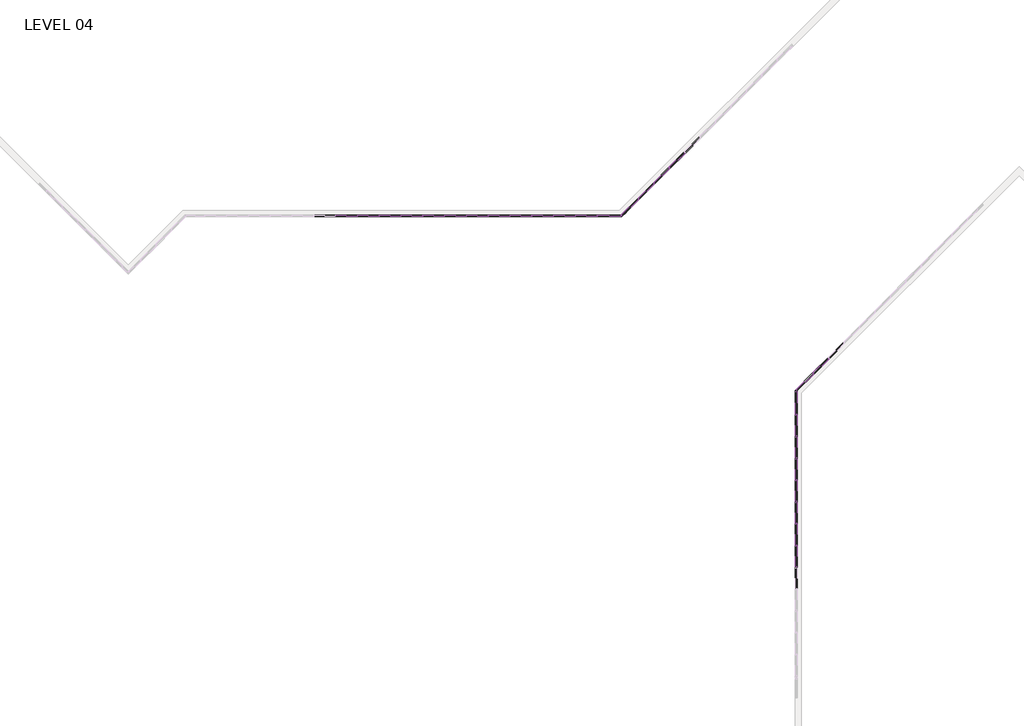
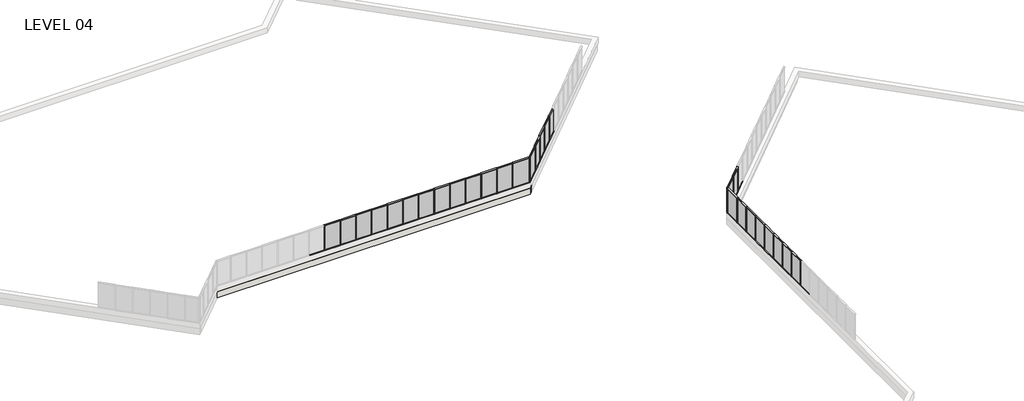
# One storey, part 13 of 17: 89 members, 28 plates, 1 wall.
"""IFC4 building model written with IfcOpenShell, lengths in millimetres."""

from ifc_helpers import new_model, si_unit, origin, place, context, project, spatial, faceted_brep, transform, mapped, element, save
from components import member_5247f267, member_e44af9ab, member_800970d4, member_1bd862b2, member_7ca0f77f, member_c975838b, plate_67294edd, plate_bbcbcabf, plate_e0fd5134, plate_db5d6751

model = new_model("IFC4")

# Units and contexts
model_context = context("Model", 3, world=origin())
ifc_project = project(units=[si_unit("LENGTHUNIT", "METRE", prefix="MILLI")], contexts=[model_context])

# Site, building, storey
site = spatial("IfcSite", under=ifc_project)
building = spatial("IfcBuilding", under=site)
storey = spatial("IfcBuildingStorey", under=building, Name="LEVEL 04", Elevation=12052.3)

# Members
placement = place(None, origin())
member_shape = member_5247f267(model_context)
element("IfcMember", 1, ObjectType="Rectangular Mullion : 2\" x 4.5\" rectangular", at=placement, inside=storey, context=model_context, shape_type="MappedRepresentation", body=[
    mapped(member_shape, transform((38182.55, 88955.8023049, 12052.3), x_axis=(0.0, 0.0, -1.0), y_axis=(0.0, 1.0, 0.0), z_axis=(1.0, 0.0, 0.0))),
])
element("IfcMember", 2, ObjectType="Rectangular Mullion : 2\" x 4.5\" rectangular", at=placement, inside=storey, context=model_context, shape_type="MappedRepresentation", body=[
    mapped(member_shape, transform((36658.55, 88955.8023049, 12052.3), x_axis=(0.0, 0.0, -1.0), y_axis=(0.0, 1.0, 0.0), z_axis=(1.0, 0.0, 0.0))),
])
element("IfcMember", 3, ObjectType="Rectangular Mullion : 2\" x 4.5\" rectangular", at=placement, inside=storey, context=model_context, shape_type="MappedRepresentation", body=[
    mapped(member_shape, transform((35134.55, 88955.8023049, 12052.3), x_axis=(0.0, 0.0, -1.0), y_axis=(0.0, 1.0, 0.0), z_axis=(1.0, 0.0, 0.0))),
])
element("IfcMember", 4, ObjectType="Rectangular Mullion : 2\" x 4.5\" rectangular", at=placement, inside=storey, context=model_context, shape_type="MappedRepresentation", body=[
    mapped(member_shape, transform((32086.55, 88955.8023049, 12052.3), x_axis=(0.0, 0.0, -1.0), y_axis=(0.0, 1.0, 0.0), z_axis=(1.0, 0.0, 0.0))),
])
element("IfcMember", 5, ObjectType="Rectangular Mullion : 2\" x 4.5\" rectangular", at=placement, inside=storey, context=model_context, shape_type="MappedRepresentation", body=[
    mapped(member_shape, transform((30562.55, 88955.8023049, 12052.3), x_axis=(0.0, 0.0, -1.0), y_axis=(0.0, 1.0, 0.0), z_axis=(1.0, 0.0, 0.0))),
])
element("IfcMember", 6, ObjectType="Rectangular Mullion : 2\" x 4.5\" rectangular", at=placement, inside=storey, context=model_context, shape_type="MappedRepresentation", body=[
    mapped(member_shape, transform((29038.55, 88955.8023049, 12052.3), x_axis=(0.0, 0.0, -1.0), y_axis=(0.0, 1.0, 0.0), z_axis=(1.0, 0.0, 0.0))),
])
element("IfcMember", 7, ObjectType="Rectangular Mullion : 2\" x 4.5\" rectangular", at=placement, inside=storey, context=model_context, shape_type="MappedRepresentation", body=[
    mapped(member_shape, transform((33610.55, 88955.8023049, 12052.3), x_axis=(0.0, 0.0, -1.0), y_axis=(0.0, 1.0, 0.0), z_axis=(1.0, 0.0, 0.0))),
])
element("IfcMember", 8, ObjectType="Rectangular Mullion : 2\" x 4.5\" rectangular", at=placement, inside=storey, context=model_context, shape_type="MappedRepresentation", body=[
    mapped(member_shape, transform((39706.55, 88955.8023049, 12052.3), x_axis=(0.0, 0.0, -1.0), y_axis=(0.0, 1.0, 0.0), z_axis=(1.0, 0.0, 0.0))),
])
element("IfcMember", 9, ObjectType="Rectangular Mullion : 2\" x 4.5\" rectangular", at=placement, inside=storey, context=model_context, shape_type="MappedRepresentation", body=[
    mapped(member_shape, transform((41230.55, 88955.8023049, 12052.3), x_axis=(0.0, 0.0, -1.0), y_axis=(0.0, 1.0, 0.0), z_axis=(1.0, 0.0, 0.0))),
])
element("IfcMember", 10, ObjectType="Rectangular Mullion : 2\" x 4.5\" rectangular", at=placement, inside=storey, context=model_context, shape_type="MappedRepresentation", body=[
    mapped(member_shape, transform((42754.55, 88955.8023049, 12052.3), x_axis=(0.0, 0.0, -1.0), y_axis=(0.0, 1.0, 0.0), z_axis=(1.0, 0.0, 0.0))),
])
element("IfcMember", 11, ObjectType="Rectangular Mullion : 2\" x 4.5\" rectangular", at=placement, inside=storey, context=model_context, shape_type="MappedRepresentation", body=[
    mapped(member_shape, transform((44278.55, 88955.8023049, 12052.3), x_axis=(0.0, 0.0, -1.0), y_axis=(0.0, 1.0, 0.0), z_axis=(1.0, 0.0, 0.0))),
])
element("IfcMember", 12, ObjectType="Rectangular Mullion : 2\" x 4.5\" rectangular", at=placement, inside=storey, context=model_context, shape_type="MappedRepresentation", body=[
    mapped(member_shape, transform((45802.55, 88955.8023049, 12052.3), x_axis=(0.0, 0.0, -1.0), y_axis=(0.0, 1.0, 0.0), z_axis=(1.0, 0.0, 0.0))),
])
element("IfcMember", 13, ObjectType="Rectangular Mullion : 2\" x 4.5\" rectangular", at=placement, inside=storey, context=model_context, shape_type="MappedRepresentation", body=[
    mapped(member_shape, transform((47326.55, 88955.8023049, 12052.3), x_axis=(0.0, 0.0, -1.0), y_axis=(0.0, 1.0, 0.0), z_axis=(1.0, 0.0, 0.0))),
])
element("IfcMember", 14, ObjectType="Rectangular Mullion : 2\" x 4.5\" rectangular", at=placement, inside=storey, context=model_context, shape_type="MappedRepresentation", body=[
    mapped(member_shape, transform((51331.7667125, 91245.9128818, 12052.3), x_axis=(0.0, 0.0, -1.0), y_axis=(0.7071067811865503, -0.7071067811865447, 0.0), z_axis=(-0.7071067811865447, -0.7071067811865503, 0.0))),
])
element("IfcMember", 15, ObjectType="Rectangular Mullion : 2\" x 4.5\" rectangular", at=placement, inside=storey, context=model_context, shape_type="MappedRepresentation", body=[
    mapped(member_shape, transform((52409.397447, 92323.5436163, 12052.3), x_axis=(0.0, 0.0, -1.0), y_axis=(0.7071067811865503, -0.7071067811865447, 0.0), z_axis=(-0.7071067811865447, -0.7071067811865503, 0.0))),
])
element("IfcMember", 16, ObjectType="Rectangular Mullion : 2\" x 4.5\" rectangular", at=placement, inside=storey, context=model_context, shape_type="MappedRepresentation", body=[
    mapped(member_shape, transform((53487.0281815, 93401.1743508, 12052.3), x_axis=(0.0, 0.0, -1.0), y_axis=(0.7071067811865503, -0.7071067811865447, 0.0), z_axis=(-0.7071067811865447, -0.7071067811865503, 0.0))),
])
element("IfcMember", 17, ObjectType="Rectangular Mullion : 2\" x 4.5\" rectangular", at=placement, inside=storey, context=model_context, shape_type="MappedRepresentation", body=[
    mapped(member_shape, transform((50254.1359779, 90168.2821472, 12052.3), x_axis=(0.0, 0.0, -1.0), y_axis=(0.7071067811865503, -0.7071067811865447, 0.0), z_axis=(-0.7071067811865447, -0.7071067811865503, 0.0))),
])
element("IfcMember", 18, ObjectType="Rectangular Mullion : 2\" x 4.5\" rectangular", at=placement, inside=storey, context=model_context, shape_type="MappedRepresentation", body=[
    mapped(member_shape, transform((38233.35, 88955.8023049, 14643.1), x_axis=(0.0, 0.0, 1.0), y_axis=(0.0, 1.0, 0.0), z_axis=(-1.0, 0.0, 0.0))),
])
element("IfcMember", 19, ObjectType="Rectangular Mullion : 2\" x 4.5\" rectangular", at=placement, inside=storey, context=model_context, shape_type="MappedRepresentation", body=[
    mapped(member_shape, transform((36709.35, 88955.8023049, 14643.1), x_axis=(0.0, 0.0, 1.0), y_axis=(0.0, 1.0, 0.0), z_axis=(-1.0, 0.0, 0.0))),
])
element("IfcMember", 20, ObjectType="Rectangular Mullion : 2\" x 4.5\" rectangular", at=placement, inside=storey, context=model_context, shape_type="MappedRepresentation", body=[
    mapped(member_shape, transform((35185.35, 88955.8023049, 14643.1), x_axis=(0.0, 0.0, 1.0), y_axis=(0.0, 1.0, 0.0), z_axis=(-1.0, 0.0, 0.0))),
])
element("IfcMember", 21, ObjectType="Rectangular Mullion : 2\" x 4.5\" rectangular", at=placement, inside=storey, context=model_context, shape_type="MappedRepresentation", body=[
    mapped(member_shape, transform((32137.35, 88955.8023049, 14643.1), x_axis=(0.0, 0.0, 1.0), y_axis=(0.0, 1.0, 0.0), z_axis=(-1.0, 0.0, 0.0))),
])
element("IfcMember", 22, ObjectType="Rectangular Mullion : 2\" x 4.5\" rectangular", at=placement, inside=storey, context=model_context, shape_type="MappedRepresentation", body=[
    mapped(member_shape, transform((30613.35, 88955.8023049, 14643.1), x_axis=(0.0, 0.0, 1.0), y_axis=(0.0, 1.0, 0.0), z_axis=(-1.0, 0.0, 0.0))),
])
element("IfcMember", 23, ObjectType="Rectangular Mullion : 2\" x 4.5\" rectangular", at=placement, inside=storey, context=model_context, shape_type="MappedRepresentation", body=[
    mapped(member_shape, transform((29089.35, 88955.8023049, 14643.1), x_axis=(0.0, 0.0, 1.0), y_axis=(0.0, 1.0, 0.0), z_axis=(-1.0, 0.0, 0.0))),
])
element("IfcMember", 24, ObjectType="Rectangular Mullion : 2\" x 4.5\" rectangular", at=placement, inside=storey, context=model_context, shape_type="MappedRepresentation", body=[
    mapped(member_shape, transform((33661.35, 88955.8023049, 14643.1), x_axis=(0.0, 0.0, 1.0), y_axis=(0.0, 1.0, 0.0), z_axis=(-1.0, 0.0, 0.0))),
])
element("IfcMember", 25, ObjectType="Rectangular Mullion : 2\" x 4.5\" rectangular", at=placement, inside=storey, context=model_context, shape_type="MappedRepresentation", body=[
    mapped(member_shape, transform((39757.35, 88955.8023049, 14643.1), x_axis=(0.0, 0.0, 1.0), y_axis=(0.0, 1.0, 0.0), z_axis=(-1.0, 0.0, 0.0))),
])
element("IfcMember", 26, ObjectType="Rectangular Mullion : 2\" x 4.5\" rectangular", at=placement, inside=storey, context=model_context, shape_type="MappedRepresentation", body=[
    mapped(member_shape, transform((41281.35, 88955.8023049, 14643.1), x_axis=(0.0, 0.0, 1.0), y_axis=(0.0, 1.0, 0.0), z_axis=(-1.0, 0.0, 0.0))),
])
element("IfcMember", 27, ObjectType="Rectangular Mullion : 2\" x 4.5\" rectangular", at=placement, inside=storey, context=model_context, shape_type="MappedRepresentation", body=[
    mapped(member_shape, transform((42805.35, 88955.8023049, 14643.1), x_axis=(0.0, 0.0, 1.0), y_axis=(0.0, 1.0, 0.0), z_axis=(-1.0, 0.0, 0.0))),
])
element("IfcMember", 28, ObjectType="Rectangular Mullion : 2\" x 4.5\" rectangular", at=placement, inside=storey, context=model_context, shape_type="MappedRepresentation", body=[
    mapped(member_shape, transform((44329.35, 88955.8023049, 14643.1), x_axis=(0.0, 0.0, 1.0), y_axis=(0.0, 1.0, 0.0), z_axis=(-1.0, 0.0, 0.0))),
])
element("IfcMember", 29, ObjectType="Rectangular Mullion : 2\" x 4.5\" rectangular", at=placement, inside=storey, context=model_context, shape_type="MappedRepresentation", body=[
    mapped(member_shape, transform((45853.35, 88955.8023049, 14643.1), x_axis=(0.0, 0.0, 1.0), y_axis=(0.0, 1.0, 0.0), z_axis=(-1.0, 0.0, 0.0))),
])
element("IfcMember", 30, ObjectType="Rectangular Mullion : 2\" x 4.5\" rectangular", at=placement, inside=storey, context=model_context, shape_type="MappedRepresentation", body=[
    mapped(member_shape, transform((51295.845688, 91209.9918573, 14643.1), x_axis=(0.0, 0.0, 1.0), y_axis=(0.7071067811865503, -0.7071067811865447, 0.0), z_axis=(0.7071067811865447, 0.7071067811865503, 0.0))),
])
element("IfcMember", 31, ObjectType="Rectangular Mullion : 2\" x 4.5\" rectangular", at=placement, inside=storey, context=model_context, shape_type="MappedRepresentation", body=[
    mapped(member_shape, transform((52373.4764225, 92287.6225918, 14643.1), x_axis=(0.0, 0.0, 1.0), y_axis=(0.7071067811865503, -0.7071067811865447, 0.0), z_axis=(0.7071067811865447, 0.7071067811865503, 0.0))),
])
element("IfcMember", 32, ObjectType="Rectangular Mullion : 2\" x 4.5\" rectangular", at=placement, inside=storey, context=model_context, shape_type="MappedRepresentation", body=[
    mapped(member_shape, transform((53451.107157, 93365.2533263, 14643.1), x_axis=(0.0, 0.0, 1.0), y_axis=(0.7071067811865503, -0.7071067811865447, 0.0), z_axis=(0.7071067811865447, 0.7071067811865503, 0.0))),
])
member_2_shape = member_e44af9ab(model_context)
element("IfcMember", 33, ObjectType="Rectangular Mullion : 2\" x 4.5\" rectangular", at=placement, inside=storey, context=model_context, shape_type="MappedRepresentation", body=[
    mapped(member_2_shape, transform((38207.95, 88955.8023049, 12052.3), x_axis=(-1.0, 0.0, 0.0), y_axis=(0.0, 1.0, 0.0), z_axis=(0.0, 0.0, -1.0))),
])
element("IfcMember", 34, ObjectType="Rectangular Mullion : 2\" x 4.5\" rectangular", at=placement, inside=storey, context=model_context, shape_type="MappedRepresentation", body=[
    mapped(member_2_shape, transform((36683.95, 88955.8023049, 12052.3), x_axis=(-1.0, 0.0, 0.0), y_axis=(0.0, 1.0, 0.0), z_axis=(0.0, 0.0, -1.0))),
])
element("IfcMember", 35, ObjectType="Rectangular Mullion : 2\" x 4.5\" rectangular", at=placement, inside=storey, context=model_context, shape_type="MappedRepresentation", body=[
    mapped(member_2_shape, transform((35159.95, 88955.8023049, 12052.3), x_axis=(-1.0, 0.0, 0.0), y_axis=(0.0, 1.0, 0.0), z_axis=(0.0, 0.0, -1.0))),
])
element("IfcMember", 36, ObjectType="Rectangular Mullion : 2\" x 4.5\" rectangular", at=placement, inside=storey, context=model_context, shape_type="MappedRepresentation", body=[
    mapped(member_2_shape, transform((32111.95, 88955.8023049, 12052.3), x_axis=(-1.0, 0.0, 0.0), y_axis=(0.0, 1.0, 0.0), z_axis=(0.0, 0.0, -1.0))),
])
element("IfcMember", 37, ObjectType="Rectangular Mullion : 2\" x 4.5\" rectangular", at=placement, inside=storey, context=model_context, shape_type="MappedRepresentation", body=[
    mapped(member_2_shape, transform((30587.95, 88955.8023049, 12052.3), x_axis=(-1.0, 0.0, 0.0), y_axis=(0.0, 1.0, 0.0), z_axis=(0.0, 0.0, -1.0))),
])
element("IfcMember", 38, ObjectType="Rectangular Mullion : 2\" x 4.5\" rectangular", at=placement, inside=storey, context=model_context, shape_type="MappedRepresentation", body=[
    mapped(member_2_shape, transform((29063.95, 88955.8023049, 12052.3), x_axis=(-1.0, 0.0, 0.0), y_axis=(0.0, 1.0, 0.0), z_axis=(0.0, 0.0, -1.0))),
])
element("IfcMember", 39, ObjectType="Rectangular Mullion : 2\" x 4.5\" rectangular", at=placement, inside=storey, context=model_context, shape_type="MappedRepresentation", body=[
    mapped(member_2_shape, transform((33635.95, 88955.8023049, 12052.3), x_axis=(-1.0, 0.0, 0.0), y_axis=(0.0, 1.0, 0.0), z_axis=(0.0, 0.0, -1.0))),
])
element("IfcMember", 40, ObjectType="Rectangular Mullion : 2\" x 4.5\" rectangular", at=placement, inside=storey, context=model_context, shape_type="MappedRepresentation", body=[
    mapped(member_2_shape, transform((39731.95, 88955.8023049, 12052.3), x_axis=(-1.0, 0.0, 0.0), y_axis=(0.0, 1.0, 0.0), z_axis=(0.0, 0.0, -1.0))),
])
element("IfcMember", 41, ObjectType="Rectangular Mullion : 2\" x 4.5\" rectangular", at=placement, inside=storey, context=model_context, shape_type="MappedRepresentation", body=[
    mapped(member_2_shape, transform((41255.95, 88955.8023049, 12052.3), x_axis=(-1.0, 0.0, 0.0), y_axis=(0.0, 1.0, 0.0), z_axis=(0.0, 0.0, -1.0))),
])
element("IfcMember", 42, ObjectType="Rectangular Mullion : 2\" x 4.5\" rectangular", at=placement, inside=storey, context=model_context, shape_type="MappedRepresentation", body=[
    mapped(member_2_shape, transform((42779.95, 88955.8023049, 12052.3), x_axis=(-1.0, 0.0, 0.0), y_axis=(0.0, 1.0, 0.0), z_axis=(0.0, 0.0, -1.0))),
])
element("IfcMember", 43, ObjectType="Rectangular Mullion : 2\" x 4.5\" rectangular", at=placement, inside=storey, context=model_context, shape_type="MappedRepresentation", body=[
    mapped(member_2_shape, transform((44303.95, 88955.8023049, 12052.3), x_axis=(-1.0, 0.0, 0.0), y_axis=(0.0, 1.0, 0.0), z_axis=(0.0, 0.0, -1.0))),
])
element("IfcMember", 44, ObjectType="Rectangular Mullion : 2\" x 4.5\" rectangular", at=placement, inside=storey, context=model_context, shape_type="MappedRepresentation", body=[
    mapped(member_2_shape, transform((45827.95, 88955.8023049, 12052.3), x_axis=(-1.0, 0.0, 0.0), y_axis=(0.0, 1.0, 0.0), z_axis=(0.0, 0.0, -1.0))),
])
element("IfcMember", 45, ObjectType="Rectangular Mullion : 2\" x 4.5\" rectangular", at=placement, inside=storey, context=model_context, shape_type="MappedRepresentation", body=[
    mapped(member_2_shape, transform((47351.95, 88955.8023049, 12052.3), x_axis=(-1.0, 0.0, 0.0), y_axis=(0.0, 1.0, 0.0), z_axis=(0.0, 0.0, -1.0))),
])
element("IfcMember", 46, ObjectType="Rectangular Mullion : 2\" x 4.5\" rectangular", at=placement, inside=storey, context=model_context, shape_type="MappedRepresentation", body=[
    mapped(member_2_shape, transform((51313.8062002, 91227.9523695, 12052.3), x_axis=(0.7071067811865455, 0.7071067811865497, 0.0), y_axis=(0.7071067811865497, -0.7071067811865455, 0.0), z_axis=(0.0, 0.0, -1.0))),
])
element("IfcMember", 47, ObjectType="Rectangular Mullion : 2\" x 4.5\" rectangular", at=placement, inside=storey, context=model_context, shape_type="MappedRepresentation", body=[
    mapped(member_2_shape, transform((52391.4369347, 92305.583104, 12052.3), x_axis=(0.7071067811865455, 0.7071067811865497, 0.0), y_axis=(0.7071067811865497, -0.7071067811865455, 0.0), z_axis=(0.0, 0.0, -1.0))),
])
element("IfcMember", 48, ObjectType="Rectangular Mullion : 2\" x 4.5\" rectangular", at=placement, inside=storey, context=model_context, shape_type="MappedRepresentation", body=[
    mapped(member_2_shape, transform((53469.0676693, 93383.2138386, 12052.3), x_axis=(0.7071067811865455, 0.7071067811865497, 0.0), y_axis=(0.7071067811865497, -0.7071067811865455, 0.0), z_axis=(0.0, 0.0, -1.0))),
])
element("IfcMember", 49, ObjectType="Rectangular Mullion : 2\" x 4.5\" rectangular", at=placement, inside=storey, context=model_context, shape_type="MappedRepresentation", body=[
    mapped(member_2_shape, transform((50236.1754657, 90150.321635, 12052.3), x_axis=(0.7071067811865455, 0.7071067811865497, 0.0), y_axis=(0.7071067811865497, -0.7071067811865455, 0.0), z_axis=(0.0, 0.0, -1.0))),
])
member_3_shape = member_800970d4(model_context)
element("IfcMember", 50, ObjectType="Rectangular Mullion : 2\" x 4.5\" rectangular", at=placement, inside=storey, context=model_context, shape_type="MappedRepresentation", body=[
    mapped(member_3_shape, transform((49041.6561356, 88955.8023049, 14643.1), x_axis=(1.0, 0.0, 0.0), y_axis=(0.0, 1.0, 0.0), z_axis=(0.0, 0.0, 1.0))),
])
element("IfcMember", 51, ObjectType="Rectangular Mullion : 2\" x 4.5\" rectangular", at=placement, inside=storey, context=model_context, shape_type="MappedRepresentation", body=[
    mapped(member_3_shape, transform((49041.6561356, 88955.8023049, 14643.1), x_axis=(-0.7071067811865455, -0.7071067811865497, 0.0), y_axis=(0.7071067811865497, -0.7071067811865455, 0.0), z_axis=(0.0, 0.0, 1.0))),
])
member_4_shape = member_1bd862b2(model_context)
element("IfcMember", 52, ObjectType="Rectangular Mullion : 2\" x 4.5\" rectangular", at=placement, inside=storey, context=model_context, shape_type="MappedRepresentation", body=[
    mapped(member_4_shape, transform((47377.35, 88955.8023049, 14643.1), x_axis=(0.0, 0.0, 1.0), y_axis=(0.0, 1.0, 0.0), z_axis=(-1.0, 0.0, 0.0))),
])
element("IfcMember", 53, ObjectType="Rectangular Mullion : 2\" x 4.5\" rectangular", at=placement, inside=storey, context=model_context, shape_type="MappedRepresentation", body=[
    mapped(member_4_shape, transform((48990.8561356, 88955.8023049, 12052.3), x_axis=(0.0, 0.0, -1.0), y_axis=(0.0, 1.0, 0.0), z_axis=(1.0, 0.0, 0.0))),
])
member_5_shape = member_7ca0f77f(model_context)
element("IfcMember", 54, ObjectType="Rectangular Mullion : 2\" x 4.5\" rectangular", at=placement, inside=storey, context=model_context, shape_type="MappedRepresentation", body=[
    mapped(member_5_shape, transform((50218.2149534, 90132.3611227, 14643.1), x_axis=(0.0, 0.0, 1.0), y_axis=(0.7071067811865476, -0.7071067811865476, 0.0), z_axis=(0.7071067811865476, 0.7071067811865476, 0.0))),
])
element("IfcMember", 55, ObjectType="Rectangular Mullion : 2\" x 4.5\" rectangular", at=placement, inside=storey, context=model_context, shape_type="MappedRepresentation", body=[
    mapped(member_5_shape, transform((49077.5771601, 88991.7233294, 12052.3), x_axis=(0.0, 0.0, -1.0), y_axis=(0.7071067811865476, -0.7071067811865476, 0.0), z_axis=(-0.7071067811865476, -0.7071067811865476, 0.0))),
])
element("IfcMember", 56, ObjectType="Rectangular Mullion : 2\" x 4.5\" rectangular", at=placement, inside=storey, context=model_context, shape_type="MappedRepresentation", body=[
    mapped(member_shape, transform((61263.7847164, 65925.3675885, 14643.1), x_axis=(0.0, 0.0, 1.0), y_axis=(-1.0, 0.0, 0.0), z_axis=(0.0, -1.0, 0.0))),
])
element("IfcMember", 57, ObjectType="Rectangular Mullion : 2\" x 4.5\" rectangular", at=placement, inside=storey, context=model_context, shape_type="MappedRepresentation", body=[
    mapped(member_shape, transform((61263.7847164, 64401.3675885, 14643.1), x_axis=(0.0, 0.0, 1.0), y_axis=(-1.0, 0.0, 0.0), z_axis=(0.0, -1.0, 0.0))),
])
element("IfcMember", 58, ObjectType="Rectangular Mullion : 2\" x 4.5\" rectangular", at=placement, inside=storey, context=model_context, shape_type="MappedRepresentation", body=[
    mapped(member_shape, transform((61263.7847164, 67449.3675885, 14643.1), x_axis=(0.0, 0.0, 1.0), y_axis=(-1.0, 0.0, 0.0), z_axis=(0.0, -1.0, 0.0))),
])
element("IfcMember", 59, ObjectType="Rectangular Mullion : 2\" x 4.5\" rectangular", at=placement, inside=storey, context=model_context, shape_type="MappedRepresentation", body=[
    mapped(member_shape, transform((61263.7847164, 68973.3675885, 14643.1), x_axis=(0.0, 0.0, 1.0), y_axis=(-1.0, 0.0, 0.0), z_axis=(0.0, -1.0, 0.0))),
])
element("IfcMember", 60, ObjectType="Rectangular Mullion : 2\" x 4.5\" rectangular", at=placement, inside=storey, context=model_context, shape_type="MappedRepresentation", body=[
    mapped(member_shape, transform((61263.7847164, 70497.3675885, 14643.1), x_axis=(0.0, 0.0, 1.0), y_axis=(-1.0, 0.0, 0.0), z_axis=(0.0, -1.0, 0.0))),
])
element("IfcMember", 61, ObjectType="Rectangular Mullion : 2\" x 4.5\" rectangular", at=placement, inside=storey, context=model_context, shape_type="MappedRepresentation", body=[
    mapped(member_shape, transform((61263.7847164, 72021.3675885, 14643.1), x_axis=(0.0, 0.0, 1.0), y_axis=(-1.0, 0.0, 0.0), z_axis=(0.0, -1.0, 0.0))),
])
element("IfcMember", 62, ObjectType="Rectangular Mullion : 2\" x 4.5\" rectangular", at=placement, inside=storey, context=model_context, shape_type="MappedRepresentation", body=[
    mapped(member_shape, transform((61263.7847164, 73545.3675885, 14643.1), x_axis=(0.0, 0.0, 1.0), y_axis=(-1.0, 0.0, 0.0), z_axis=(0.0, -1.0, 0.0))),
])
element("IfcMember", 63, ObjectType="Rectangular Mullion : 2\" x 4.5\" rectangular", at=placement, inside=storey, context=model_context, shape_type="MappedRepresentation", body=[
    mapped(member_shape, transform((63517.9742688, 78987.8632765, 14643.1), x_axis=(0.0, 0.0, 1.0), y_axis=(0.7071067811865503, -0.7071067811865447, 0.0), z_axis=(0.7071067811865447, 0.7071067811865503, 0.0))),
])
element("IfcMember", 64, ObjectType="Rectangular Mullion : 2\" x 4.5\" rectangular", at=placement, inside=storey, context=model_context, shape_type="MappedRepresentation", body=[
    mapped(member_shape, transform((61263.7847164, 65874.5675885, 12052.3), x_axis=(0.0, 0.0, -1.0), y_axis=(-1.0, 0.0, 0.0), z_axis=(0.0, 1.0, 0.0))),
])
element("IfcMember", 65, ObjectType="Rectangular Mullion : 2\" x 4.5\" rectangular", at=placement, inside=storey, context=model_context, shape_type="MappedRepresentation", body=[
    mapped(member_shape, transform((61263.7847164, 64350.5675885, 12052.3), x_axis=(0.0, 0.0, -1.0), y_axis=(-1.0, 0.0, 0.0), z_axis=(0.0, 1.0, 0.0))),
])
element("IfcMember", 66, ObjectType="Rectangular Mullion : 2\" x 4.5\" rectangular", at=placement, inside=storey, context=model_context, shape_type="MappedRepresentation", body=[
    mapped(member_shape, transform((61263.7847164, 67398.5675885, 12052.3), x_axis=(0.0, 0.0, -1.0), y_axis=(-1.0, 0.0, 0.0), z_axis=(0.0, 1.0, 0.0))),
])
element("IfcMember", 67, ObjectType="Rectangular Mullion : 2\" x 4.5\" rectangular", at=placement, inside=storey, context=model_context, shape_type="MappedRepresentation", body=[
    mapped(member_shape, transform((61263.7847164, 68922.5675885, 12052.3), x_axis=(0.0, 0.0, -1.0), y_axis=(-1.0, 0.0, 0.0), z_axis=(0.0, 1.0, 0.0))),
])
element("IfcMember", 68, ObjectType="Rectangular Mullion : 2\" x 4.5\" rectangular", at=placement, inside=storey, context=model_context, shape_type="MappedRepresentation", body=[
    mapped(member_shape, transform((61263.7847164, 70446.5675885, 12052.3), x_axis=(0.0, 0.0, -1.0), y_axis=(-1.0, 0.0, 0.0), z_axis=(0.0, 1.0, 0.0))),
])
element("IfcMember", 69, ObjectType="Rectangular Mullion : 2\" x 4.5\" rectangular", at=placement, inside=storey, context=model_context, shape_type="MappedRepresentation", body=[
    mapped(member_shape, transform((61263.7847164, 71970.5675885, 12052.3), x_axis=(0.0, 0.0, -1.0), y_axis=(-1.0, 0.0, 0.0), z_axis=(0.0, 1.0, 0.0))),
])
element("IfcMember", 70, ObjectType="Rectangular Mullion : 2\" x 4.5\" rectangular", at=placement, inside=storey, context=model_context, shape_type="MappedRepresentation", body=[
    mapped(member_shape, transform((61263.7847164, 73494.5675885, 12052.3), x_axis=(0.0, 0.0, -1.0), y_axis=(-1.0, 0.0, 0.0), z_axis=(0.0, 1.0, 0.0))),
])
element("IfcMember", 71, ObjectType="Rectangular Mullion : 2\" x 4.5\" rectangular", at=placement, inside=storey, context=model_context, shape_type="MappedRepresentation", body=[
    mapped(member_shape, transform((61263.7847164, 75018.5675885, 12052.3), x_axis=(0.0, 0.0, -1.0), y_axis=(-1.0, 0.0, 0.0), z_axis=(0.0, 1.0, 0.0))),
])
element("IfcMember", 72, ObjectType="Rectangular Mullion : 2\" x 4.5\" rectangular", at=placement, inside=storey, context=model_context, shape_type="MappedRepresentation", body=[
    mapped(member_shape, transform((63553.8952932, 79023.784301, 12052.3), x_axis=(0.0, 0.0, -1.0), y_axis=(0.7071067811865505, -0.7071067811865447, 0.0), z_axis=(-0.7071067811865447, -0.7071067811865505, 0.0))),
])
element("IfcMember", 73, ObjectType="Rectangular Mullion : 2\" x 4.5\" rectangular", at=placement, inside=storey, context=model_context, shape_type="MappedRepresentation", body=[
    mapped(member_shape, transform((62476.2645587, 77946.1535665, 12052.3), x_axis=(0.0, 0.0, -1.0), y_axis=(0.7071067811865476, -0.7071067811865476, 0.0), z_axis=(-0.7071067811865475, -0.7071067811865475, 0.0))),
])
element("IfcMember", 74, ObjectType="Rectangular Mullion : 2\" x 4.5\" rectangular", at=placement, inside=storey, context=model_context, shape_type="MappedRepresentation", body=[
    mapped(member_2_shape, transform((61263.7847164, 65899.9675885, 12052.3), x_axis=(0.0, -1.0, 0.0), y_axis=(-1.0, 0.0, 0.0), z_axis=(0.0, 0.0, -1.0))),
])
element("IfcMember", 75, ObjectType="Rectangular Mullion : 2\" x 4.5\" rectangular", at=placement, inside=storey, context=model_context, shape_type="MappedRepresentation", body=[
    mapped(member_2_shape, transform((61263.7847164, 64375.9675885, 12052.3), x_axis=(0.0, -1.0, 0.0), y_axis=(-1.0, 0.0, 0.0), z_axis=(0.0, 0.0, -1.0))),
])
element("IfcMember", 76, ObjectType="Rectangular Mullion : 2\" x 4.5\" rectangular", at=placement, inside=storey, context=model_context, shape_type="MappedRepresentation", body=[
    mapped(member_2_shape, transform((61263.7847164, 67423.9675885, 12052.3), x_axis=(0.0, -1.0, 0.0), y_axis=(-1.0, 0.0, 0.0), z_axis=(0.0, 0.0, -1.0))),
])
element("IfcMember", 77, ObjectType="Rectangular Mullion : 2\" x 4.5\" rectangular", at=placement, inside=storey, context=model_context, shape_type="MappedRepresentation", body=[
    mapped(member_2_shape, transform((61263.7847164, 68947.9675885, 12052.3), x_axis=(0.0, -1.0, 0.0), y_axis=(-1.0, 0.0, 0.0), z_axis=(0.0, 0.0, -1.0))),
])
element("IfcMember", 78, ObjectType="Rectangular Mullion : 2\" x 4.5\" rectangular", at=placement, inside=storey, context=model_context, shape_type="MappedRepresentation", body=[
    mapped(member_2_shape, transform((61263.7847164, 70471.9675885, 12052.3), x_axis=(0.0, -1.0, 0.0), y_axis=(-1.0, 0.0, 0.0), z_axis=(0.0, 0.0, -1.0))),
])
element("IfcMember", 79, ObjectType="Rectangular Mullion : 2\" x 4.5\" rectangular", at=placement, inside=storey, context=model_context, shape_type="MappedRepresentation", body=[
    mapped(member_2_shape, transform((61263.7847164, 71995.9675885, 12052.3), x_axis=(0.0, -1.0, 0.0), y_axis=(-1.0, 0.0, 0.0), z_axis=(0.0, 0.0, -1.0))),
])
element("IfcMember", 80, ObjectType="Rectangular Mullion : 2\" x 4.5\" rectangular", at=placement, inside=storey, context=model_context, shape_type="MappedRepresentation", body=[
    mapped(member_2_shape, transform((61263.7847164, 73519.9675885, 12052.3), x_axis=(0.0, -1.0, 0.0), y_axis=(-1.0, 0.0, 0.0), z_axis=(0.0, 0.0, -1.0))),
])
element("IfcMember", 81, ObjectType="Rectangular Mullion : 2\" x 4.5\" rectangular", at=placement, inside=storey, context=model_context, shape_type="MappedRepresentation", body=[
    mapped(member_2_shape, transform((61263.7847164, 75043.9675885, 12052.3), x_axis=(0.0, -1.0, 0.0), y_axis=(-1.0, 0.0, 0.0), z_axis=(0.0, 0.0, -1.0))),
])
element("IfcMember", 82, ObjectType="Rectangular Mullion : 2\" x 4.5\" rectangular", at=placement, inside=storey, context=model_context, shape_type="MappedRepresentation", body=[
    mapped(member_2_shape, transform((63535.934781, 79005.8237887, 12052.3), x_axis=(0.7071067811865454, 0.7071067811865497, 0.0), y_axis=(0.7071067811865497, -0.7071067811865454, 0.0), z_axis=(0.0, 0.0, -1.0))),
])
element("IfcMember", 83, ObjectType="Rectangular Mullion : 2\" x 4.5\" rectangular", at=placement, inside=storey, context=model_context, shape_type="MappedRepresentation", body=[
    mapped(member_2_shape, transform((62458.3040465, 77928.1930542, 12052.3), x_axis=(0.7071067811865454, 0.7071067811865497, 0.0), y_axis=(0.7071067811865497, -0.7071067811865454, 0.0), z_axis=(0.0, 0.0, -1.0))),
])
element("IfcMember", 84, ObjectType="Rectangular Mullion : 2\" x 4.5\" rectangular", at=placement, inside=storey, context=model_context, shape_type="MappedRepresentation", body=[
    mapped(member_3_shape, transform((61263.7847164, 76733.6737241, 14643.1), x_axis=(0.0, 1.0, 0.0), y_axis=(-1.0, 0.0, 0.0), z_axis=(0.0, 0.0, 1.0))),
])
element("IfcMember", 85, ObjectType="Rectangular Mullion : 2\" x 4.5\" rectangular", at=placement, inside=storey, context=model_context, shape_type="MappedRepresentation", body=[
    mapped(member_3_shape, transform((61263.7847164, 76733.6737241, 14643.1), x_axis=(-0.7071067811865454, -0.7071067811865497, 0.0), y_axis=(0.7071067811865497, -0.7071067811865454, 0.0), z_axis=(0.0, 0.0, 1.0))),
])
element("IfcMember", 86, ObjectType="Rectangular Mullion : 2\" x 4.5\" rectangular", at=placement, inside=storey, context=model_context, shape_type="MappedRepresentation", body=[
    mapped(member_4_shape, transform((61263.7847164, 76682.8737241, 12052.3), x_axis=(0.0, 0.0, -1.0), y_axis=(-1.0, 0.0, 0.0), z_axis=(0.0, 1.0, 0.0))),
])
element("IfcMember", 87, ObjectType="Rectangular Mullion : 2\" x 4.5\" rectangular", at=placement, inside=storey, context=model_context, shape_type="MappedRepresentation", body=[
    mapped(member_4_shape, transform((61263.7847164, 75069.3675885, 14643.1), x_axis=(0.0, 0.0, 1.0), y_axis=(-1.0, 0.0, 0.0), z_axis=(0.0, -1.0, 0.0))),
])
member_6_shape = member_c975838b(model_context)
element("IfcMember", 88, ObjectType="Rectangular Mullion : 2\" x 4.5\" rectangular", at=placement, inside=storey, context=model_context, shape_type="MappedRepresentation", body=[
    mapped(member_6_shape, transform((61299.7057409, 76769.5947486, 12052.3), x_axis=(0.0, 0.0, -1.0), y_axis=(0.7071067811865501, -0.7071067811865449, 0.0), z_axis=(-0.7071067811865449, -0.7071067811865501, 0.0))),
])
element("IfcMember", 89, ObjectType="Rectangular Mullion : 2\" x 4.5\" rectangular", at=placement, inside=storey, context=model_context, shape_type="MappedRepresentation", body=[
    mapped(member_6_shape, transform((62440.3435342, 77910.232542, 14643.1), x_axis=(0.0, 0.0, 1.0), y_axis=(0.7071067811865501, -0.7071067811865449, 0.0), z_axis=(0.7071067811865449, 0.7071067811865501, 0.0))),
])

# Plates
plate_shape = plate_67294edd(model_context)
element("IfcPlate", 90, ObjectType="System Panel : 1/4\" Glass", at=placement, inside=storey, context=model_context, shape_type="MappedRepresentation", body=[
    mapped(plate_shape, transform((37445.95, 88955.8023049, 12103.1), x_axis=(-1.0, 0.0, 0.0), y_axis=(0.0, -1.0, 0.0), z_axis=(0.0, 0.0, 1.0))),
])
element("IfcPlate", 91, ObjectType="System Panel : 1/4\" Glass", at=placement, inside=storey, context=model_context, shape_type="MappedRepresentation", body=[
    mapped(plate_shape, transform((35921.95, 88955.8023049, 12103.1), x_axis=(-1.0, 0.0, 0.0), y_axis=(0.0, -1.0, 0.0), z_axis=(0.0, 0.0, 1.0))),
])
element("IfcPlate", 92, ObjectType="System Panel : 1/4\" Glass", at=placement, inside=storey, context=model_context, shape_type="MappedRepresentation", body=[
    mapped(plate_shape, transform((34397.95, 88955.8023049, 12103.1), x_axis=(-1.0, 0.0, 0.0), y_axis=(0.0, -1.0, 0.0), z_axis=(0.0, 0.0, 1.0))),
])
element("IfcPlate", 93, ObjectType="System Panel : 1/4\" Glass", at=placement, inside=storey, context=model_context, shape_type="MappedRepresentation", body=[
    mapped(plate_shape, transform((31349.95, 88955.8023049, 12103.1), x_axis=(-1.0, 0.0, 0.0), y_axis=(0.0, -1.0, 0.0), z_axis=(0.0, 0.0, 1.0))),
])
element("IfcPlate", 94, ObjectType="System Panel : 1/4\" Glass", at=placement, inside=storey, context=model_context, shape_type="MappedRepresentation", body=[
    mapped(plate_shape, transform((29825.95, 88955.8023049, 12103.1), x_axis=(-1.0, 0.0, 0.0), y_axis=(0.0, -1.0, 0.0), z_axis=(0.0, 0.0, 1.0))),
])
element("IfcPlate", 95, ObjectType="System Panel : 1/4\" Glass", at=placement, inside=storey, context=model_context, shape_type="MappedRepresentation", body=[
    mapped(plate_shape, transform((32873.95, 88955.8023049, 12103.1), x_axis=(-1.0, 0.0, 0.0), y_axis=(0.0, -1.0, 0.0), z_axis=(0.0, 0.0, 1.0))),
])
element("IfcPlate", 96, ObjectType="System Panel : 1/4\" Glass", at=placement, inside=storey, context=model_context, shape_type="MappedRepresentation", body=[
    mapped(plate_shape, transform((38969.95, 88955.8023049, 12103.1), x_axis=(-1.0, 0.0, 0.0), y_axis=(0.0, -1.0, 0.0), z_axis=(0.0, 0.0, 1.0))),
])
element("IfcPlate", 97, ObjectType="System Panel : 1/4\" Glass", at=placement, inside=storey, context=model_context, shape_type="MappedRepresentation", body=[
    mapped(plate_shape, transform((40493.95, 88955.8023049, 12103.1), x_axis=(-1.0, 0.0, 0.0), y_axis=(0.0, -1.0, 0.0), z_axis=(0.0, 0.0, 1.0))),
])
element("IfcPlate", 98, ObjectType="System Panel : 1/4\" Glass", at=placement, inside=storey, context=model_context, shape_type="MappedRepresentation", body=[
    mapped(plate_shape, transform((42017.95, 88955.8023049, 12103.1), x_axis=(-1.0, 0.0, 0.0), y_axis=(0.0, -1.0, 0.0), z_axis=(0.0, 0.0, 1.0))),
])
element("IfcPlate", 99, ObjectType="System Panel : 1/4\" Glass", at=placement, inside=storey, context=model_context, shape_type="MappedRepresentation", body=[
    mapped(plate_shape, transform((43541.95, 88955.8023049, 12103.1), x_axis=(-1.0, 0.0, 0.0), y_axis=(0.0, -1.0, 0.0), z_axis=(0.0, 0.0, 1.0))),
])
element("IfcPlate", 100, ObjectType="System Panel : 1/4\" Glass", at=placement, inside=storey, context=model_context, shape_type="MappedRepresentation", body=[
    mapped(plate_shape, transform((45065.95, 88955.8023049, 12103.1), x_axis=(-1.0, 0.0, 0.0), y_axis=(0.0, -1.0, 0.0), z_axis=(0.0, 0.0, 1.0))),
])
element("IfcPlate", 101, ObjectType="System Panel : 1/4\" Glass", at=placement, inside=storey, context=model_context, shape_type="MappedRepresentation", body=[
    mapped(plate_shape, transform((46589.95, 88955.8023049, 12103.1), x_axis=(-1.0, 0.0, 0.0), y_axis=(0.0, -1.0, 0.0), z_axis=(0.0, 0.0, 1.0))),
])
element("IfcPlate", 102, ObjectType="System Panel : 1/4\" Glass", at=placement, inside=storey, context=model_context, shape_type="MappedRepresentation", body=[
    mapped(plate_shape, transform((51852.6215675, 91766.7677368, 12103.1), x_axis=(0.7071067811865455, 0.7071067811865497, 0.0), y_axis=(-0.7071067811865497, 0.7071067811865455, 0.0), z_axis=(0.0, 0.0, 1.0))),
])
element("IfcPlate", 103, ObjectType="System Panel : 1/4\" Glass", at=placement, inside=storey, context=model_context, shape_type="MappedRepresentation", body=[
    mapped(plate_shape, transform((52930.252302, 92844.3984713, 12103.1), x_axis=(0.7071067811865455, 0.7071067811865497, 0.0), y_axis=(-0.7071067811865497, 0.7071067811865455, 0.0), z_axis=(0.0, 0.0, 1.0))),
])
element("IfcPlate", 104, ObjectType="System Panel : 1/4\" Glass", at=placement, inside=storey, context=model_context, shape_type="MappedRepresentation", body=[
    mapped(plate_shape, transform((50774.990833, 90689.1370023, 12103.1), x_axis=(0.7071067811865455, 0.7071067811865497, 0.0), y_axis=(-0.7071067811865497, 0.7071067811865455, 0.0), z_axis=(0.0, 0.0, 1.0))),
])
plate_2_shape = plate_bbcbcabf(model_context)
element("IfcPlate", 105, ObjectType="System Panel : 1/4\" Glass", at=placement, inside=storey, context=model_context, shape_type="MappedRepresentation", body=[
    mapped(plate_2_shape, transform((48184.1030678, 88955.8023049, 12103.1), x_axis=(-1.0, 0.0, 0.0), y_axis=(0.0, -1.0, 0.0), z_axis=(0.0, 0.0, 1.0))),
])
plate_3_shape = plate_e0fd5134(model_context)
element("IfcPlate", 106, ObjectType="System Panel : 1/4\" Glass", at=placement, inside=storey, context=model_context, shape_type="MappedRepresentation", body=[
    mapped(plate_3_shape, transform((54007.8793361, 93922.0255054, 12103.1), x_axis=(0.7071067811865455, 0.7071067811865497, 0.0), y_axis=(-0.7071067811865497, 0.7071067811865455, 0.0), z_axis=(0.0, 0.0, 1.0))),
])
plate_4_shape = plate_db5d6751(model_context)
element("IfcPlate", 107, ObjectType="System Panel : 1/4\" Glass", at=placement, inside=storey, context=model_context, shape_type="MappedRepresentation", body=[
    mapped(plate_4_shape, transform((49647.8960568, 89562.0422261, 12103.1), x_axis=(0.7071067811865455, 0.7071067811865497, 0.0), y_axis=(-0.7071067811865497, 0.7071067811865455, 0.0), z_axis=(0.0, 0.0, 1.0))),
])
element("IfcPlate", 108, ObjectType="System Panel : 1/4\" Glass", at=placement, inside=storey, context=model_context, shape_type="MappedRepresentation", body=[
    mapped(plate_shape, transform((61263.7847164, 65137.9675885, 12103.1), x_axis=(0.0, -1.0, 0.0), y_axis=(1.0, 0.0, 0.0), z_axis=(0.0, 0.0, 1.0))),
])
element("IfcPlate", 109, ObjectType="System Panel : 1/4\" Glass", at=placement, inside=storey, context=model_context, shape_type="MappedRepresentation", body=[
    mapped(plate_shape, transform((61263.7847164, 66661.9675885, 12103.1), x_axis=(0.0, -1.0, 0.0), y_axis=(1.0, 0.0, 0.0), z_axis=(0.0, 0.0, 1.0))),
])
element("IfcPlate", 110, ObjectType="System Panel : 1/4\" Glass", at=placement, inside=storey, context=model_context, shape_type="MappedRepresentation", body=[
    mapped(plate_shape, transform((61263.7847164, 68185.9675885, 12103.1), x_axis=(0.0, -1.0, 0.0), y_axis=(1.0, 0.0, 0.0), z_axis=(0.0, 0.0, 1.0))),
])
element("IfcPlate", 111, ObjectType="System Panel : 1/4\" Glass", at=placement, inside=storey, context=model_context, shape_type="MappedRepresentation", body=[
    mapped(plate_shape, transform((61263.7847164, 69709.9675885, 12103.1), x_axis=(0.0, -1.0, 0.0), y_axis=(1.0, 0.0, 0.0), z_axis=(0.0, 0.0, 1.0))),
])
element("IfcPlate", 112, ObjectType="System Panel : 1/4\" Glass", at=placement, inside=storey, context=model_context, shape_type="MappedRepresentation", body=[
    mapped(plate_shape, transform((61263.7847164, 71233.9675885, 12103.1), x_axis=(0.0, -1.0, 0.0), y_axis=(1.0, 0.0, 0.0), z_axis=(0.0, 0.0, 1.0))),
])
element("IfcPlate", 113, ObjectType="System Panel : 1/4\" Glass", at=placement, inside=storey, context=model_context, shape_type="MappedRepresentation", body=[
    mapped(plate_shape, transform((61263.7847164, 72757.9675885, 12103.1), x_axis=(0.0, -1.0, 0.0), y_axis=(1.0, 0.0, 0.0), z_axis=(0.0, 0.0, 1.0))),
])
element("IfcPlate", 114, ObjectType="System Panel : 1/4\" Glass", at=placement, inside=storey, context=model_context, shape_type="MappedRepresentation", body=[
    mapped(plate_shape, transform((61263.7847164, 74281.9675885, 12103.1), x_axis=(0.0, -1.0, 0.0), y_axis=(1.0, 0.0, 0.0), z_axis=(0.0, 0.0, 1.0))),
])
element("IfcPlate", 115, ObjectType="System Panel : 1/4\" Glass", at=placement, inside=storey, context=model_context, shape_type="MappedRepresentation", body=[
    mapped(plate_shape, transform((62997.1194137, 78467.0084215, 12103.1), x_axis=(0.7071067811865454, 0.7071067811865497, 0.0), y_axis=(-0.7071067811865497, 0.7071067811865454, 0.0), z_axis=(0.0, 0.0, 1.0))),
])
element("IfcPlate", 116, ObjectType="System Panel : 1/4\" Glass", at=placement, inside=storey, context=model_context, shape_type="MappedRepresentation", body=[
    mapped(plate_2_shape, transform((61263.7847164, 75876.1206563, 12103.1), x_axis=(0.0, -1.0, 0.0), y_axis=(1.0, 0.0, 0.0), z_axis=(0.0, 0.0, 1.0))),
])
element("IfcPlate", 117, ObjectType="System Panel : 1/4\" Glass", at=placement, inside=storey, context=model_context, shape_type="MappedRepresentation", body=[
    mapped(plate_4_shape, transform((61870.0246376, 77339.9136453, 12103.1), x_axis=(0.7071067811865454, 0.7071067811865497, 0.0), y_axis=(-0.7071067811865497, 0.7071067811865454, 0.0), z_axis=(0.0, 0.0, 1.0))),
])

# Wall
element("IfcWall", 118, ObjectType="01-CONCRETE-12", at=placement, inside=storey, context=model_context, shape_type="Brep", body=[
    faceted_brep([(49370.1284407, 89203.4523049, 10871.2), (48939.0761469, 89203.4523049, 10871.2), (48656.8136083, 89203.4523049, 10871.2), (41560.75, 89203.4523049, 10871.2), (40951.15, 89203.4523049, 10871.2), (33940.75, 89203.4523049, 10871.2), (33331.15, 89203.4523049, 10871.2), (26320.75, 89203.4523049, 10871.2), (25711.15, 89203.4523049, 10871.2), (18700.75, 89203.4523049, 10871.2), (18459.0761469, 89203.4523049, 10871.2), (18459.0761469, 89203.4523049, 11493.5), (18700.75, 89203.4523049, 11493.5), (25711.15, 89203.4523049, 11493.5), (26320.75, 89203.4523049, 11493.5), (33331.15, 89203.4523049, 11493.5), (33940.75, 89203.4523049, 11493.5), (40951.15, 89203.4523049, 11493.5), (41560.75, 89203.4523049, 11493.5), (48656.8136083, 89203.4523049, 11493.5), (48939.0761469, 89203.4523049, 11493.5), (49370.1284407, 89203.4523049, 11493.5), (49065.3284407, 88898.6523049, 10871.2), (49065.3284407, 88898.6523049, 11493.5), (18585.3284407, 88898.6523049, 11493.5), (18154.2761469, 88898.6523049, 11493.5), (18154.2761469, 88898.6523049, 10871.2), (18585.3284407, 88898.6523049, 10871.2), (18408.2761469, 89152.6523049, 10871.2), (18408.2761469, 89152.6523049, 11493.5)], [[[0, 1, 2, 3, 4, 5, 6, 7, 8, 9, 10, 11, 12, 13, 14, 15, 16, 17, 18, 19, 20, 21]], [[22, 23, 24, 25, 26, 27]], [[10, 9, 8, 7, 6, 5, 4, 3, 2, 1, 0, 22, 27, 26, 28]], [[21, 20, 19, 18, 17, 16, 15, 14, 13, 12, 11, 29, 25, 24, 23]], [[11, 10, 28, 26, 25, 29]], [[0, 21, 23, 22]]]),
])

save(model, "model.ifc")
